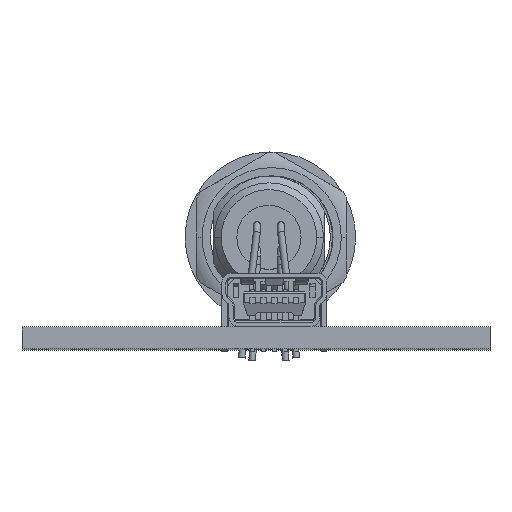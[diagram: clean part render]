
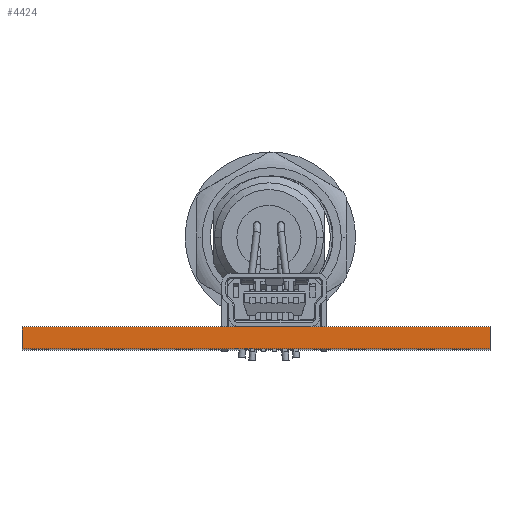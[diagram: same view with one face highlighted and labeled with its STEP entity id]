
A CAD part, top view. The second image highlights one B-rep face of the part: STEP entity #4424.
In plain terms, the highlighted planar face has unit normal (0, 0, 1) as drawn and (1, 0, 0) by its records, which use the part's own axes.
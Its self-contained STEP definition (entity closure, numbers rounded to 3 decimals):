
#757 = CARTESIAN_POINT ( 'NONE',  ( 51.3, 1.61, -34.3 ) ) ;
#1513 = DIRECTION ( 'NONE',  ( 0., 0., -1. ) ) ;
#1842 = CARTESIAN_POINT ( 'NONE',  ( 51.3, 1.61, -34.3 ) ) ;
#2080 = ORIENTED_EDGE ( 'NONE', *, *, #23470, .T. ) ;
#3741 = ORIENTED_EDGE ( 'NONE', *, *, #13331, .F. ) ;
#4359 = FACE_OUTER_BOUND ( 'NONE', #25100, .T. ) ;
#4424 = ADVANCED_FACE ( 'NONE', ( #4359 ), #18335, .F. ) ;
#7005 = LINE ( 'NONE', #11049, #11452 ) ;
#8421 = DIRECTION ( 'NONE',  ( -1., 0., 0. ) ) ;
#9132 = VECTOR ( 'NONE', #21251, 1000. ) ;
#9414 = CARTESIAN_POINT ( 'NONE',  ( 51.3, 1.61, 0. ) ) ;
#9584 = CARTESIAN_POINT ( 'NONE',  ( 51.3, 0., 0. ) ) ;
#9819 = CARTESIAN_POINT ( 'NONE',  ( 51.3, 0., -34.3 ) ) ;
#10575 = EDGE_CURVE ( 'NONE', #20609, #16421, #15072, .T. ) ;
#11049 = CARTESIAN_POINT ( 'NONE',  ( 51.3, 0., 0. ) ) ;
#11283 = VERTEX_POINT ( 'NONE', #9819 ) ;
#11452 = VECTOR ( 'NONE', #24915, 1000. ) ;
#12121 = VECTOR ( 'NONE', #23002, 1000. ) ;
#12584 = DIRECTION ( 'NONE',  ( 0., 0., 1. ) ) ;
#13252 = ORIENTED_EDGE ( 'NONE', *, *, #21826, .T. ) ;
#13331 = EDGE_CURVE ( 'NONE', #16421, #11283, #13379, .T. ) ;
#13379 = LINE ( 'NONE', #757, #12121 ) ;
#14580 = AXIS2_PLACEMENT_3D ( 'NONE', #20463, #8421, #12584 ) ;
#15072 = LINE ( 'NONE', #9414, #20449 ) ;
#16421 = VERTEX_POINT ( 'NONE', #1842 ) ;
#18335 = PLANE ( 'NONE',  #14580 ) ;
#20449 = VECTOR ( 'NONE', #1513, 1000. ) ;
#20463 = CARTESIAN_POINT ( 'NONE',  ( 51.3, 1.61, 0. ) ) ;
#20609 = VERTEX_POINT ( 'NONE', #24001 ) ;
#21251 = DIRECTION ( 'NONE',  ( 0., -1., 0. ) ) ;
#21436 = CARTESIAN_POINT ( 'NONE',  ( 51.3, 1.61, 0. ) ) ;
#21826 = EDGE_CURVE ( 'NONE', #22113, #11283, #7005, .T. ) ;
#22113 = VERTEX_POINT ( 'NONE', #9584 ) ;
#23002 = DIRECTION ( 'NONE',  ( 0., -1., 0. ) ) ;
#23470 = EDGE_CURVE ( 'NONE', #20609, #22113, #24626, .T. ) ;
#24001 = CARTESIAN_POINT ( 'NONE',  ( 51.3, 1.61, 0. ) ) ;
#24626 = LINE ( 'NONE', #21436, #9132 ) ;
#24915 = DIRECTION ( 'NONE',  ( 0., 0., -1. ) ) ;
#25100 = EDGE_LOOP ( 'NONE', ( #13252, #3741, #25657, #2080 ) ) ;
#25657 = ORIENTED_EDGE ( 'NONE', *, *, #10575, .F. ) ;
